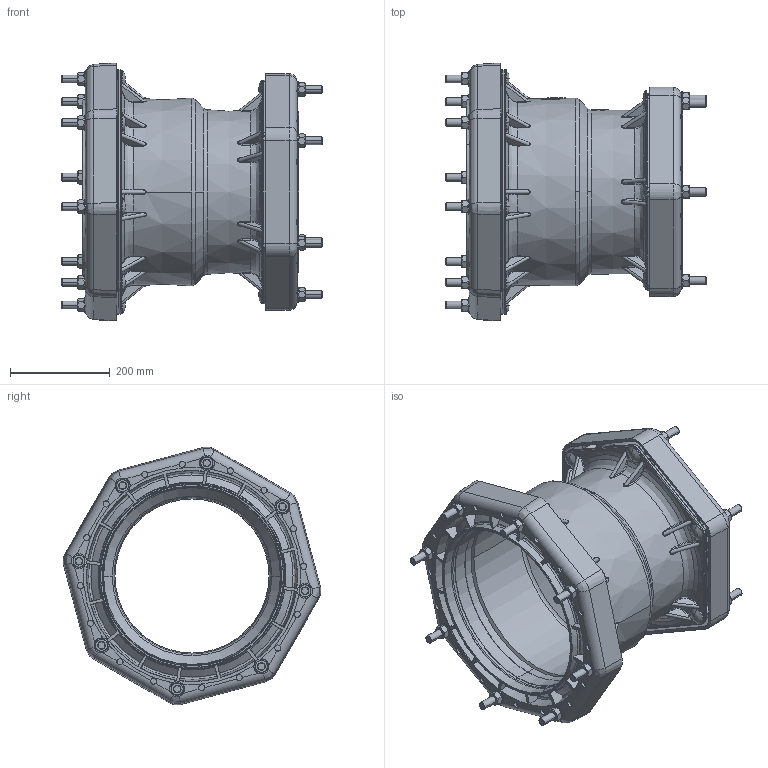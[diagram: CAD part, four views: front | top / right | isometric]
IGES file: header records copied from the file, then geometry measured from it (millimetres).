
Global section: file name: No Iges File Name specified; native system: AutoDesk Inventor R12.0; preprocessor: AutoDesk Inventor Iges Exporter R12.0; author: No Author specified; organization: No Organization specified; date: 20140908.105953; units: inch
Bounding box: 524 x 517.94 x 517.94 mm (x, y, z)
Volume: 7689224.6 mm3; surface area: 2178702.3 mm2
Topology: 2 solids, 2 shells, 3435 faces, 9484 edges, 6072 vertices
Faces by surface type: plane 1231, bspline 587, revolution 520, cone 517, cylinder 374, torus 206
